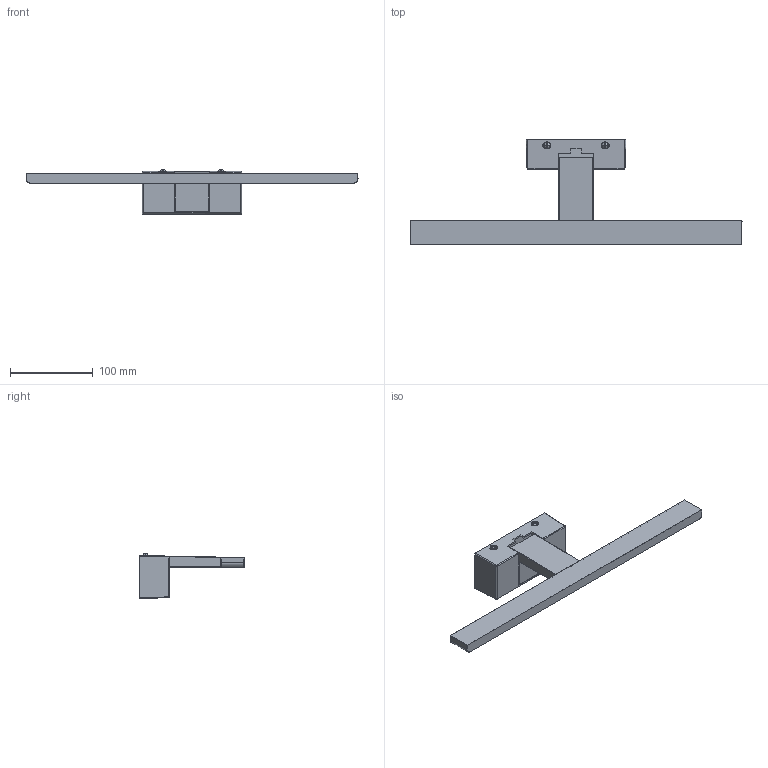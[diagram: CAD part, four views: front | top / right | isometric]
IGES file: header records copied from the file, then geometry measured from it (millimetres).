
Start section: SolidWorks IGES file using analytic representation for surfaces
Global section: file name: C:\Users\anna.bielnik\Desktop\modele 3D tymczasowe\CEZANNE S\s2.IGS; native system: SolidWorks 2023; preprocessor: SolidWorks 2023; author: anna.bielnik; date: 230705.095803; units: millimetre
Bounding box: 400 x 127.2 x 54.24 mm (x, y, z)
Surface area: 128189.6 mm2 (no closed solid volume)
Topology: 0 solids, 0 shells, 168 faces, 1702 edges, 1698 vertices
Faces by surface type: bspline 162, revolution 6
